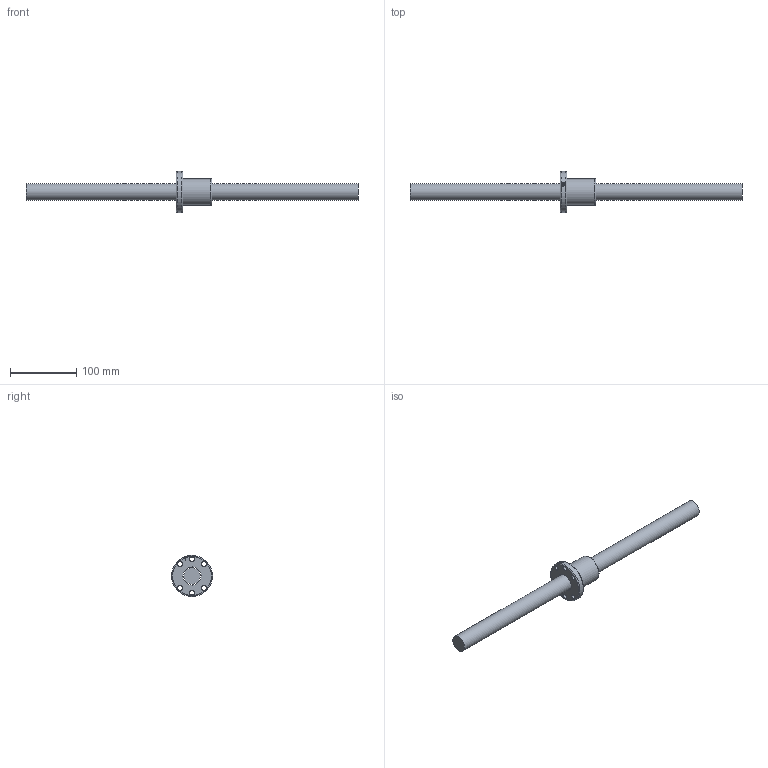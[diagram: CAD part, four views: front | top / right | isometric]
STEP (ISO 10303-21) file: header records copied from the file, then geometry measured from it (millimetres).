
FILE_DESCRIPTION (( 'STEP AP203' ), '1' );
FILE_NAME ('SFU02506N-4.step', '2024-05-14T06:01:16', ( '' ), ( '' ), 'SwSTEP 2.0', 'SolidWorks 2022', '' );
FILE_SCHEMA (( 'CONFIG_CONTROL_DESIGN' ));
Length unit declared in the file: millimetre
Products named in the file (1): SFU02506N-4
Bounding box: 500 x 62 x 62 mm (x, y, z)
Volume: 296601.1 mm3; surface area: 57886.4 mm2
Topology: 2 solids, 2 shells, 45 faces, 103 edges, 63 vertices
Faces by surface type: cylinder 18, cone 13, plane 6, bspline 5, torus 3
Full cylindrical faces by diameter (mm): 4 x1, 5 x6, 6.6 x6, 25 x1, 27.14 x1, 40 x1, 62 x1
Entity records: 2703 total; most frequent: CARTESIAN_POINT 1908, DIRECTION 148, ORIENTED_EDGE 102, EDGE_LOOP 84, AXIS2_PLACEMENT_3D 72, FACE_OUTER_BOUND 54, EDGE_CURVE 51, VERTEX_POINT 47
